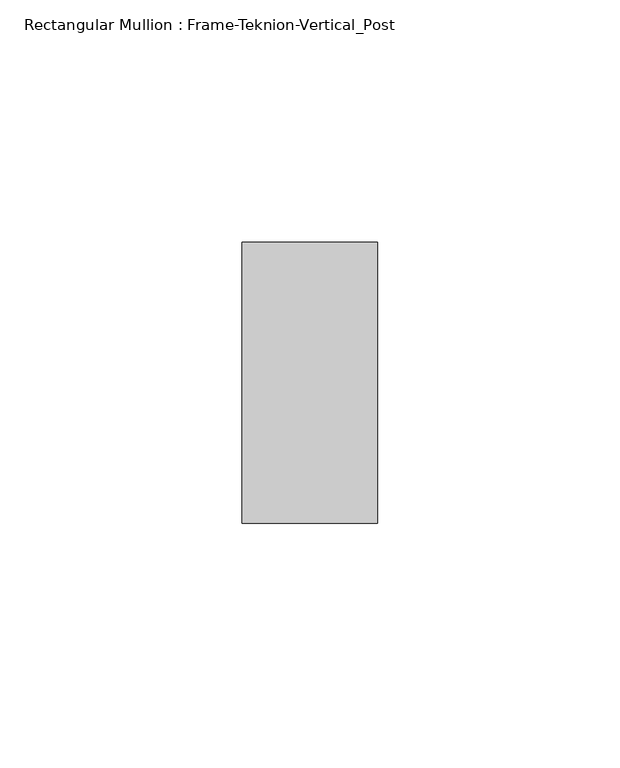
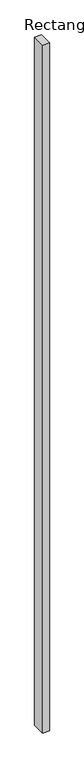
"""IFC4 building model written with IfcOpenShell, lengths in millimetres: member geometry, Rectangular Mullion : Frame-Teknion-Vertical_Post."""

from ifc_helpers import new_model, si_unit, frame, origin, place, context, project, spatial, polyline, outline, extrude, source, transform, mapped, element, save


def rectangular_mullion_frame_teknion_vertical_post_5ea4eea9(model_context):
    return source(origin(), model_context, "Body", "SweptSolid", [
        extrude(outline(polyline([(-27.9796875, 28.971875), (0.0, 28.971875), (0.0, -28.971875), (-27.9796875, -28.971875), (-27.9796875, 28.971875)])), frame((0.0, 0.0, -3048.0), z_axis=(0.0, 0.0, 1.0), x_axis=(1.0, 0.0, 0.0)), (0.0, 0.0, 1.0), 3048.0),
    ])


if __name__ == "__main__":
    model = new_model("IFC4")
    model_context = context("Model", 3, world=origin())
    ifc_project = project(units=[si_unit("LENGTHUNIT", "METRE", prefix="MILLI")], contexts=[model_context])
    site = spatial("IfcSite", under=ifc_project)
    building = spatial("IfcBuilding", under=site)
    placement = place(None, origin())
    rectangular_mullion_frame_teknion_vertical_post_shape = rectangular_mullion_frame_teknion_vertical_post_5ea4eea9(model_context)
    element("IfcMember", 1, ObjectType="Rectangular Mullion : Frame-Teknion-Vertical_Post", at=placement, inside=building, context=model_context, shape_type="MappedRepresentation", body=[
        mapped(rectangular_mullion_frame_teknion_vertical_post_shape, transform((0.0, 0.0, 0.0), x_axis=(1.0, 0.0, 0.0), y_axis=(0.0, 1.0, 0.0), z_axis=(0.0, 0.0, 1.0))),
    ])
    save(model, "model.ifc")
